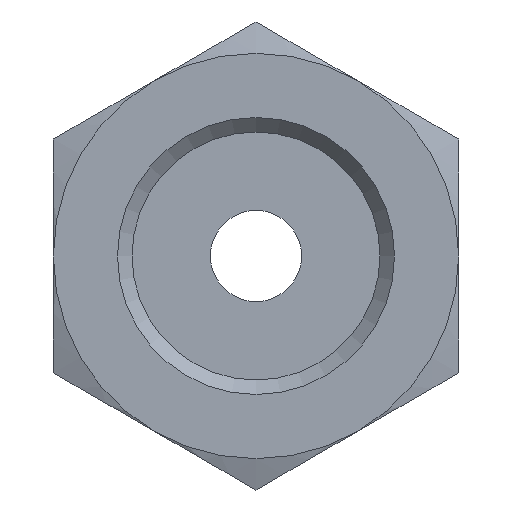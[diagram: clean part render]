
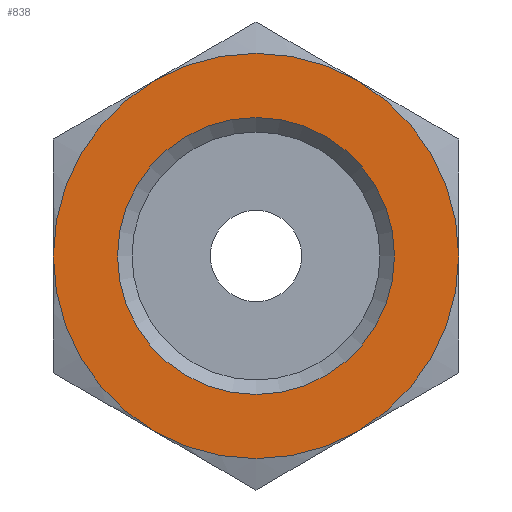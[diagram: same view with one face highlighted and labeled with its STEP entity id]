
A CAD part, front view. The second image highlights one B-rep face of the part: STEP entity #838.
In plain terms, the highlighted planar face has unit normal (0, -1, 0).
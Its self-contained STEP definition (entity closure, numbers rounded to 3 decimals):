
#31=FACE_BOUND('',#197,.T.);
#102=PLANE('',#977);
#137=FACE_OUTER_BOUND('',#196,.T.);
#196=EDGE_LOOP('',(#613,#614,#615,#616,#617,#618));
#197=EDGE_LOOP('',(#619));
#246=CIRCLE('',#944,7.);
#247=CIRCLE('',#946,7.);
#248=CIRCLE('',#948,7.);
#249=CIRCLE('',#950,7.);
#250=CIRCLE('',#952,7.);
#251=CIRCLE('',#954,7.);
#258=CIRCLE('',#972,4.783);
#346=VERTEX_POINT('',#1315);
#347=VERTEX_POINT('',#1319);
#349=VERTEX_POINT('',#1326);
#351=VERTEX_POINT('',#1336);
#353=VERTEX_POINT('',#1349);
#355=VERTEX_POINT('',#1359);
#369=VERTEX_POINT('',#1443);
#421=EDGE_CURVE('',#346,#347,#246,.T.);
#424=EDGE_CURVE('',#349,#346,#247,.T.);
#427=EDGE_CURVE('',#351,#349,#248,.T.);
#429=EDGE_CURVE('',#353,#351,#249,.T.);
#432=EDGE_CURVE('',#355,#353,#250,.T.);
#435=EDGE_CURVE('',#347,#355,#251,.T.);
#460=EDGE_CURVE('',#369,#369,#258,.T.);
#613=ORIENTED_EDGE('',*,*,#435,.T.);
#614=ORIENTED_EDGE('',*,*,#432,.T.);
#615=ORIENTED_EDGE('',*,*,#429,.T.);
#616=ORIENTED_EDGE('',*,*,#427,.T.);
#617=ORIENTED_EDGE('',*,*,#424,.T.);
#618=ORIENTED_EDGE('',*,*,#421,.T.);
#619=ORIENTED_EDGE('',*,*,#460,.F.);
#838=ADVANCED_FACE('',(#137,#31),#102,.F.);
#944=AXIS2_PLACEMENT_3D('',#1323,#1062,#1063);
#946=AXIS2_PLACEMENT_3D('',#1333,#1066,#1067);
#948=AXIS2_PLACEMENT_3D('',#1343,#1070,#1071);
#950=AXIS2_PLACEMENT_3D('',#1350,#1074,#1075);
#952=AXIS2_PLACEMENT_3D('',#1360,#1078,#1079);
#954=AXIS2_PLACEMENT_3D('',#1369,#1082,#1083);
#972=AXIS2_PLACEMENT_3D('',#1444,#1123,#1124);
#977=AXIS2_PLACEMENT_3D('',#1454,#1135,#1136);
#1062=DIRECTION('center_axis',(0.,-1.,0.));
#1063=DIRECTION('ref_axis',(1.,0.,0.));
#1066=DIRECTION('center_axis',(0.,-1.,0.));
#1067=DIRECTION('ref_axis',(1.,0.,0.));
#1070=DIRECTION('center_axis',(0.,-1.,0.));
#1071=DIRECTION('ref_axis',(1.,0.,0.));
#1074=DIRECTION('center_axis',(0.,-1.,0.));
#1075=DIRECTION('ref_axis',(1.,0.,0.));
#1078=DIRECTION('center_axis',(0.,-1.,0.));
#1079=DIRECTION('ref_axis',(1.,0.,0.));
#1082=DIRECTION('center_axis',(0.,-1.,0.));
#1083=DIRECTION('ref_axis',(1.,0.,0.));
#1123=DIRECTION('center_axis',(0.,-1.,0.));
#1124=DIRECTION('ref_axis',(-1.,0.,0.));
#1135=DIRECTION('center_axis',(0.,1.,0.));
#1136=DIRECTION('ref_axis',(0.,0.,1.));
#1315=CARTESIAN_POINT('',(-3.5,0.,6.062));
#1319=CARTESIAN_POINT('',(-7.,0.,0.));
#1323=CARTESIAN_POINT('Origin',(0.,0.,0.));
#1326=CARTESIAN_POINT('',(3.5,0.,6.062));
#1333=CARTESIAN_POINT('Origin',(0.,0.,0.));
#1336=CARTESIAN_POINT('',(7.,0.,0.));
#1343=CARTESIAN_POINT('Origin',(0.,0.,0.));
#1349=CARTESIAN_POINT('',(3.5,0.,-6.062));
#1350=CARTESIAN_POINT('Origin',(0.,0.,0.));
#1359=CARTESIAN_POINT('',(-3.5,0.,-6.062));
#1360=CARTESIAN_POINT('Origin',(0.,0.,0.));
#1369=CARTESIAN_POINT('Origin',(0.,0.,0.));
#1443=CARTESIAN_POINT('',(4.783,0.,0.));
#1444=CARTESIAN_POINT('Origin',(0.,0.,0.));
#1454=CARTESIAN_POINT('Origin',(0.,0.,0.));
